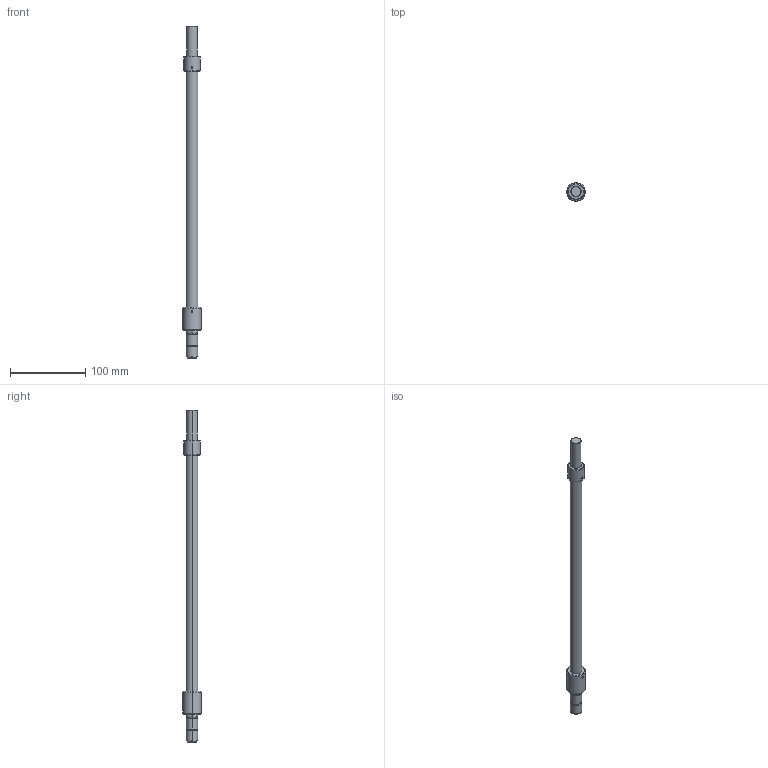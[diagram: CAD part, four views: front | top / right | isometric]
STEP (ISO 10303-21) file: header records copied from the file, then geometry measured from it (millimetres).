
FILE_DESCRIPTION (( 'STEP AP203' ), '1' );
FILE_NAME ('MSG8-1100S_A06011A0100101A-001.STEP', '2014-09-01T09:59:40', ( '' ), ( '' ), 'SwSTEP 2.0', 'SolidWorks 2011', '' );
FILE_SCHEMA (( 'CONFIG_CONTROL_DESIGN' ));
Length unit declared in the file: millimetre
Products named in the file (1): MSG8-1100S_A06011A0100101A-001
Bounding box: 25 x 25 x 440 mm (x, y, z)
Volume: 95293.3 mm3; surface area: 23841.9 mm2
Topology: 1 solids, 1 shells, 68 faces, 147 edges, 90 vertices
Faces by surface type: plane 23, cylinder 19, cone 16, torus 8, sphere 2
Entity records: 2039 total; most frequent: CARTESIAN_POINT 438, DIRECTION 344, ORIENTED_EDGE 294, EDGE_CURVE 147, AXIS2_PLACEMENT_3D 136, VERTEX_POINT 90, EDGE_LOOP 77, LINE 72
